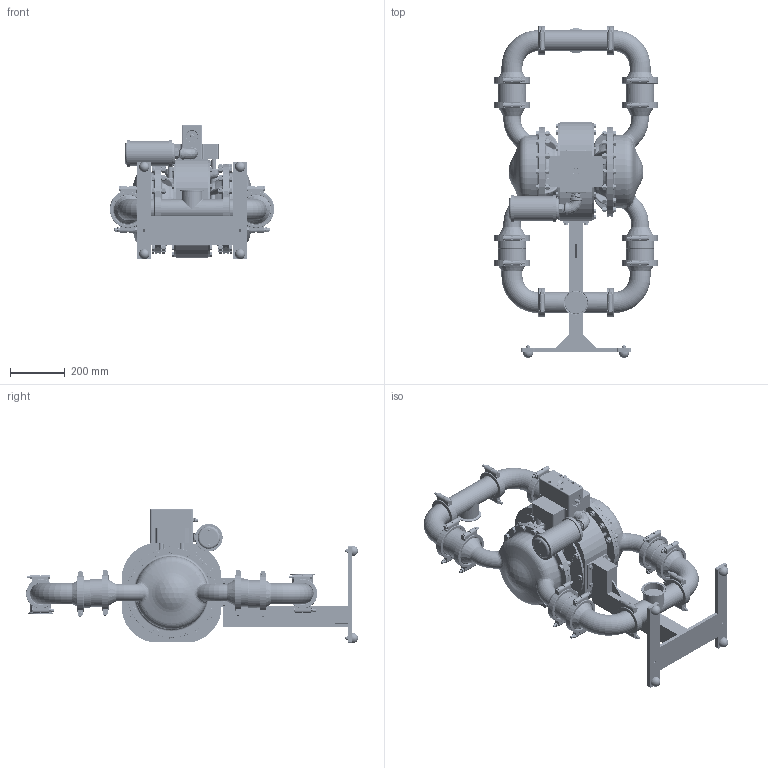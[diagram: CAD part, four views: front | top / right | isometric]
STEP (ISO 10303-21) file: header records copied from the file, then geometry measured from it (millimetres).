
FILE_DESCRIPTION (( 'STEP AP203' ), '1' );
FILE_NAME ('h1500_hs_top 1.STEP', '2022-07-04T15:01:10', ( '' ), ( '' ), 'SwSTEP 2.0', 'SolidWorks 2019', '' );
FILE_SCHEMA (( 'CONFIG_CONTROL_DESIGN' ));
Length unit declared in the file: inch
Products named in the file (1): h1500_hs_top 1
Bounding box: 598.37 x 1208.84 x 490.47 mm (x, y, z)
Volume: 51690399.8 mm3; surface area: 2486141.5 mm2
Topology: 1 solids, 1 shells, 7562 faces, 18542 edges, 11407 vertices
Faces by surface type: plane 3840, cone 1611, cylinder 1360, torus 405, bspline 292, sphere 54
Entity records: 330710 total; most frequent: CARTESIAN_POINT 155849, ORIENTED_EDGE 37036, DIRECTION 35934, EDGE_CURVE 18518, AXIS2_PLACEMENT_3D 13491, VERTEX_POINT 11397, LINE 8952, VECTOR 8952
